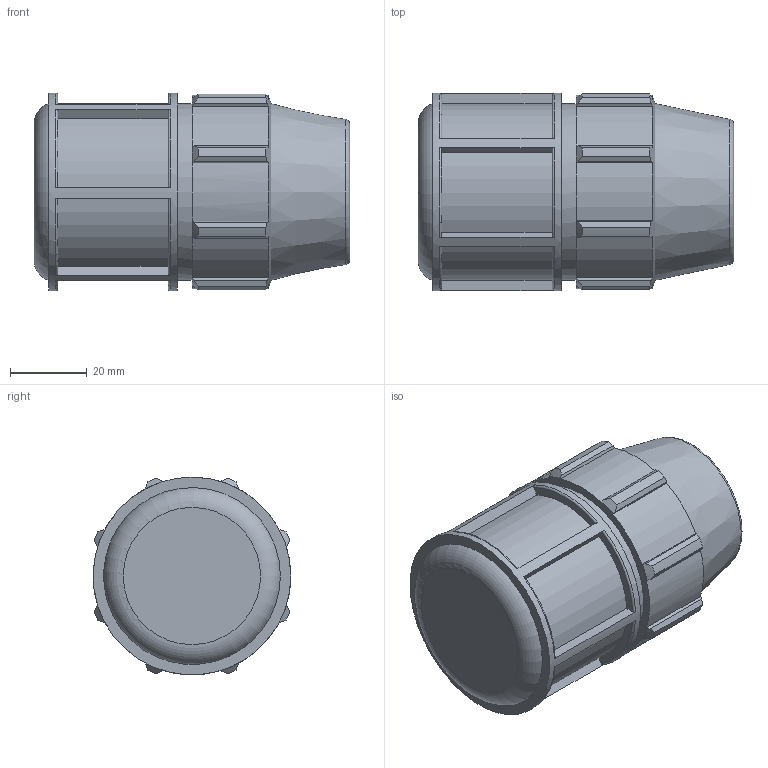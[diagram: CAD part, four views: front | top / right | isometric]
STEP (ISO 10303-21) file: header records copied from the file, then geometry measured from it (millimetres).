
FILE_DESCRIPTION(/* description */ ('PLASSON END PLUG 3/4'''''),/* implementation_level */ '2;1');
FILE_NAME(/* name */ 'C:\Dropbox\KIMPROJECTS-Inventor 2019\99-16-3568-Processing Inch\ASTM Compression 2021\0712M0\0712M0070.ipt.stp',/* time_stamp */ '2021-08-26T12:33:11+03:00',/* author */ ('Кирилл'),/* organization */ (''),/* preprocessor_version */ 'ST-DEVELOPER v17.2',/* originating_system */ 'Autodesk Inventor 2019',/* authorisation */ '');
FILE_SCHEMA (('AUTOMOTIVE_DESIGN { 1 0 10303 214 3 1 1 }'));
Length unit declared in the file: inch
Products named in the file (1): 0712M0070
Bounding box: 82.04 x 51.37 x 51.4 mm (x, y, z)
Volume: 96987.5 mm3; surface area: 24440.5 mm2
Topology: 1 solids, 1 shells, 115 faces, 317 edges, 215 vertices
Faces by surface type: plane 63, cylinder 25, torus 15, cone 12
Full cylindrical faces by diameter (mm): 26.6 x1, 45.987 x1, 51.397 x1
Entity records: 4019 total; most frequent: CARTESIAN_POINT 928, ORIENTED_EDGE 634, DIRECTION 603, EDGE_CURVE 317, AXIS2_PLACEMENT_3D 226, VERTEX_POINT 215, LINE 151, VECTOR 151
